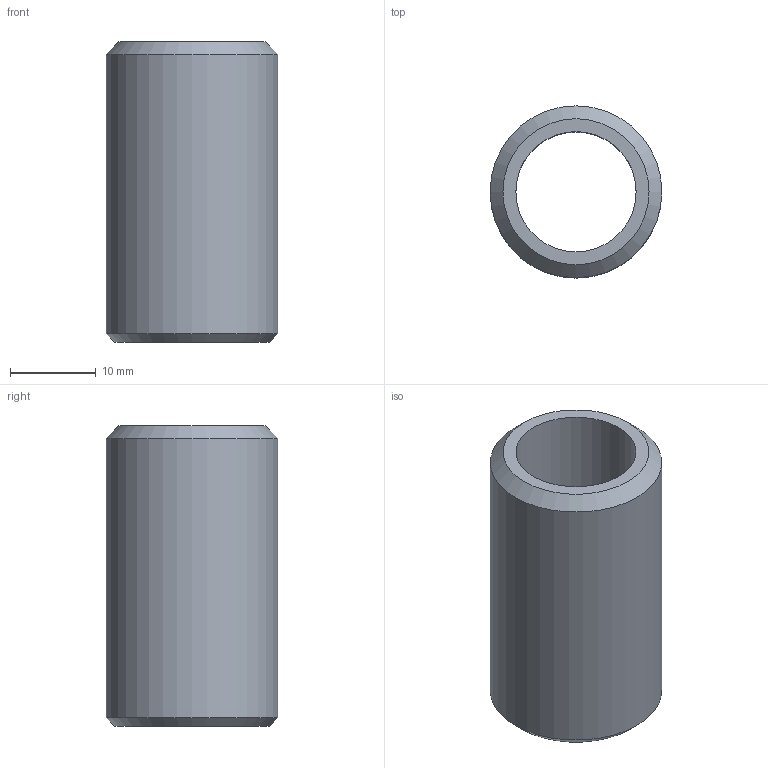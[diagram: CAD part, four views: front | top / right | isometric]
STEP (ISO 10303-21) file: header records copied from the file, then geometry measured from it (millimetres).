
FILE_DESCRIPTION(/* description */ ('','CAx-IF Rec.Pracs.---Representation and Presentation of Product Manufacturing Information (PMI)---4.0---2014-10-13'),/* implementation_level */ '2;1');
FILE_NAME(/* name */ 'rod35.step',/* time_stamp */ '2025-03-18T20:44:15+01:00',/* author */ (''),/* organization */ (''),/* preprocessor_version */ 'ST-DEVELOPER v20',/* originating_system */ 'Autodesk Translation Framework v13.20.0.188',/* authorisation */ '');
FILE_SCHEMA (('AP242_MANAGED_MODEL_BASED_3D_ENGINEERING_MIM_LF { 1 0 10303 442 1 1 4 }'));
Length unit declared in the file: millimetre
Products named in the file (1): rod
Bounding box: 20 x 20 x 35 mm (x, y, z)
Volume: 5510.2 mm3; surface area: 3962.7 mm2
Topology: 1 solids, 1 shells, 6 faces, 10 edges, 6 vertices
Faces by surface type: cylinder 2, cone 2, plane 2
Full cylindrical faces by diameter (mm): 14 x1, 20 x1
Entity records: 181 total; most frequent: DIRECTION 30, CARTESIAN_POINT 23, ORIENTED_EDGE 20, AXIS2_PLACEMENT_3D 13, EDGE_CURVE 10, EDGE_LOOP 8, FACE_OUTER_BOUND 6, CIRCLE 6
